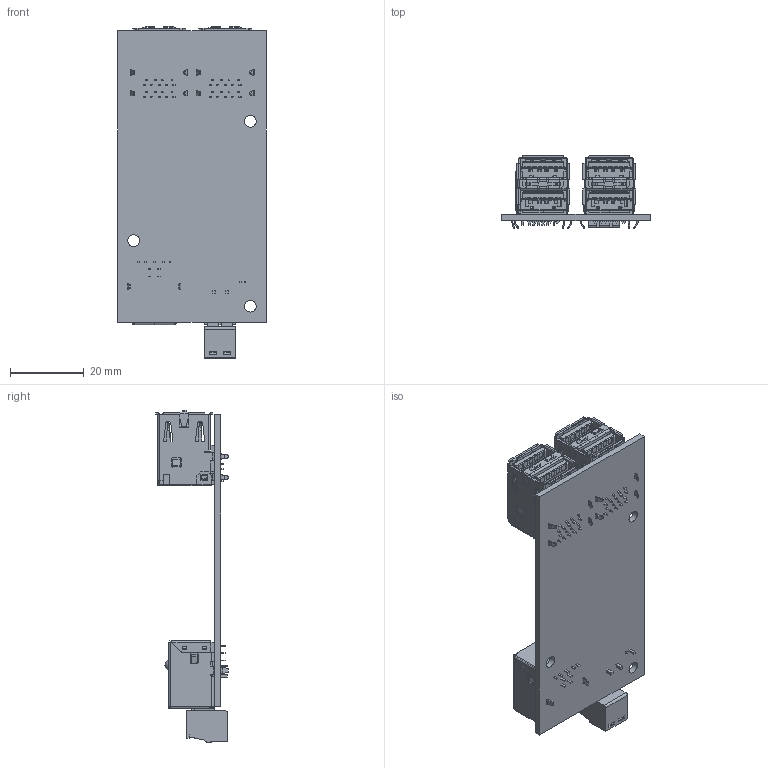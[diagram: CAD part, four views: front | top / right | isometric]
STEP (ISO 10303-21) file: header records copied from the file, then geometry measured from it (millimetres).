
FILE_DESCRIPTION(/* description */ (''),/* implementation_level */ '2;1');
FILE_NAME(/* name */ 'C:/Users/Leo Pinto/Documents/Fusion 360/AA PCBAs/CG-MIC4P31H-PCBA/CG-MIC4P31H-PCBA Model3D LPV1.stp.step',/* time_stamp */ '2022-07-07T00:58:19-04:00',/* author */ (''),/* organization */ (''),/* preprocessor_version */ 'ST-DEVELOPER v18.1',/* originating_system */ 'Autodesk Translation Framework v10.14.0.1471',/* authorisation */ '');
FILE_SCHEMA (('AUTOMOTIVE_DESIGN { 1 0 10303 214 3 1 1 }'));
Products named in the file (38): CG-MIC4P31H-PCBA; USB Type A Double Blue.0 v4; USB Type A Double Blue.0 v4_1; pin1; pin4; pin3; pin2; pin5; pin6; Housing1; Housing; Housing2; Housing4; Shielding2; Shielding; Connector Green 2 holes female v2; USB type B Second Gen Blue.2Gen1 v3; Housing1 (1); Housing2 (1); shielding_1; shielding_2; Housing3; pin3 (1); pin4 (1); pin5 (1); pin3_mir2; pin4_mir2; pin1 (1); pin2 (1); Connector green 2 pines male block 2 v2; LED 3mm; 3mm_LED; led_energy (1); led_energy; led_pin.1.1.1 (1); led_pin.1.1.1; led_pin.2.1 (1); led_pin.2.1
Assembly tree (75 placements, depth 5):
  CG-MIC4P31H-PCBA
    USB Type A Double Blue.0 v4
      pin1  x5
      pin4  x5
      pin3  x2
      pin2  x2
      pin5  x2
      pin6  x2
      Housing1
      Housing
      Housing2
      Housing4
      Shielding2
      Shielding
    USB Type A Double Blue.0 v4_1
      pin1  x5
      pin4  x5
      pin3  x2
      pin2  x2
      pin5  x2
      pin6  x2
      Housing1
      Housing
      Housing2
      Housing4
      Shielding2
      Shielding
    Connector Green 2 holes female v2
    USB type B Second Gen Blue.2Gen1 v3
      Housing1 (1)
      Housing2 (1)
      pin1 (1)  x2
      shielding_1
      pin2 (1)  x2
      shielding_2
      Housing3
      pin3 (1)
      pin4 (1)
      pin5 (1)
      pin3_mir2
      pin4_mir2
    Connector green 2 pines male block 2 v2
    LED 3mm
      3mm_LED
        led_energy (1)
          led_energy
        led_pin.1.1.1 (1)
          led_pin.1.1.1
        led_pin.2.1 (1)
          led_pin.2.1
Bounding box: 40.09 x 19.65 x 89.84 mm (x, y, z)
Volume: 12462.5 mm3; surface area: 30274.1 mm2
Topology: 68 solids, 68 shells, 5235 faces, 14806 edges, 9704 vertices
Faces by surface type: plane 3909, cylinder 1266, bspline 38, cone 11, torus 10, sphere 1
Full cylindrical faces by diameter (mm): 1 x4, 1.2 x2, 1.9 x2, 2 x4, 2.8 x4, 2.998 x1, 3.2 x3, 3.643 x1, 5.2 x3
Entity records: 93696 total; most frequent: CARTESIAN_POINT 17213, ORIENTED_EDGE 15874, DIRECTION 14916, EDGE_CURVE 7937, LINE 6590, VECTOR 6590, VERTEX_POINT 5202, AXIS2_PLACEMENT_3D 4163
